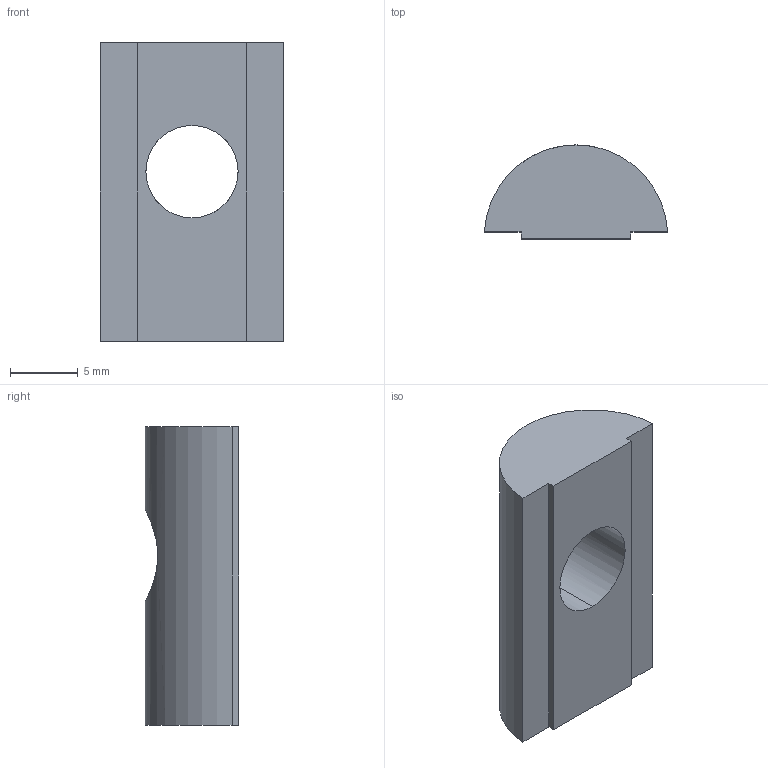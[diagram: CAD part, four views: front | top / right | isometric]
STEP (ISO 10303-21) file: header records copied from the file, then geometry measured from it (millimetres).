
FILE_DESCRIPTION (( 'STEP AP203' ), '1' );
FILE_NAME ('TCAN 8 Steel T-slot block M8 22mm (01-06-2021).STEP', '2021-06-01T06:37:29', ( '' ), ( '' ), 'SwSTEP 2.0', 'SolidWorks 2020', '' );
FILE_SCHEMA (( 'CONFIG_CONTROL_DESIGN' ));
Length unit declared in the file: millimetre
Products named in the file (1): TCAN 8 Steel T-slot block M8 22mm (01-06-2021)
Bounding box: 13.5 x 6.9 x 22 mm (x, y, z)
Volume: 1318.7 mm3; surface area: 976.2 mm2
Topology: 1 solids, 1 shells, 10 faces, 24 edges, 16 vertices
Faces by surface type: plane 7, cylinder 3
Entity records: 433 total; most frequent: CARTESIAN_POINT 115, DIRECTION 48, ORIENTED_EDGE 48, EDGE_CURVE 24, VECTOR 18, LINE 18, VERTEX_POINT 16, AXIS2_PLACEMENT_3D 15
